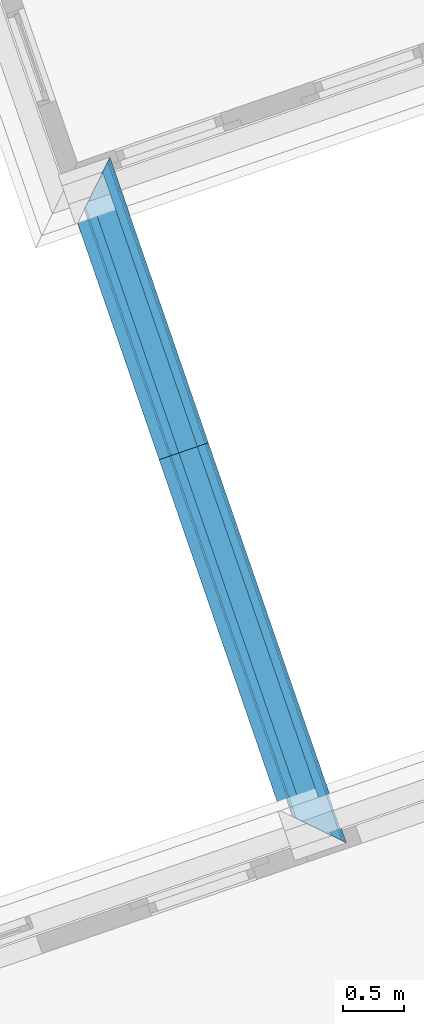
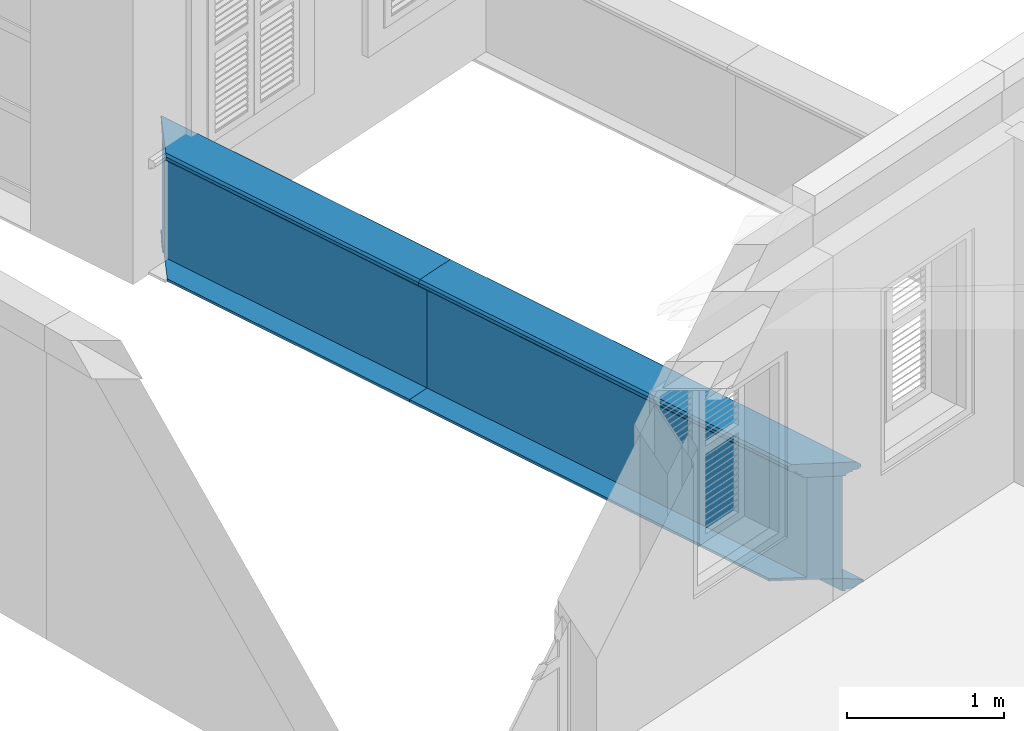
# One storey, part 5 of 16: 6 walls.
"""IFC4 building model written with IfcOpenShell, lengths in metres."""

from ifc_helpers import new_model, si_unit, frame, origin_with_axes, place, context, subcontext, project, spatial, polyline, outline, extrude, clip, halfspace, material_profile, profile_set, profile_usage, type_object, element, save


model = new_model("IFC4")

# Units and contexts
model_context = context("Model", 3, world=origin_with_axes())
body_context = subcontext(model_context, "Body", "Model", "MODEL_VIEW")
ifc_project = project(units=[si_unit("PLANEANGLEUNIT", "RADIAN"), si_unit("MASSUNIT", "GRAM", prefix="KILO"), si_unit("FORCEUNIT", "NEWTON", prefix="KILO"), si_unit("LENGTHUNIT", "METRE"), si_unit("AREAUNIT", "SQUARE_METRE"), si_unit("VOLUMEUNIT", "CUBIC_METRE")], contexts=[model_context, model_context])

# Site, building, storey
site_placement = place(None, origin_with_axes())
site = spatial("IfcSite", under=ifc_project, at=site_placement, Name="Site plot-8", CompositionType="ELEMENT")
building_placement = place(None, origin_with_axes())
building = spatial("IfcBuilding", under=site, at=building_placement, Name="Building plot-8", CompositionType="ELEMENT")
storey_placement = place(None, frame((0.0, 0.0, 3.0), z_axis=(0.0, 0.0, 1.0), x_axis=(1.0, 0.0, 0.0)))
storey = spatial("IfcBuildingStorey", under=building, at=storey_placement, Name="plot-8 1", CompositionType="ELEMENT", Elevation=3.0)

# Walls
ifc_material_profile_1 = material_profile(None, outline(polyline([(0.25, 0.0), (0.25, 0.795), (0.09, 0.795), (0.09, 0.02), (-0.08, 0.02), (-0.08, 0.0), (0.25, 0.0)])))
ifc_profile_set_1 = profile_set([ifc_material_profile_1])
ifc_profile_usage_1 = profile_usage(ifc_profile_set_1)
wall_type_1 = type_object("IfcWallType", Name="parapet internal_0", PredefinedType="PARAPET", material=ifc_profile_set_1)
wall_1_placement = place(storey_placement, frame((-11.1333938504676, 19.2098516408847, 0.0), z_axis=(0.326112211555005, -0.945331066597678, 0.0), x_axis=(0.945331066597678, 0.326112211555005, 0.0)))
element("IfcWall", 1, at=wall_1_placement, inside=storey, type_object=wall_type_1, material=ifc_profile_usage_1, Name="parapet internal_0", context=body_context, shape_type="Clipping", body=[
    clip(clip(extrude(outline(polyline([(0.25, 0.0), (0.25, 0.795), (0.09, 0.795), (0.09, 0.02), (-0.08, 0.02), (-0.08, 0.0), (0.25, 0.0)])), origin_with_axes(), (0.0, 0.0, 1.0), 5.11187846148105), halfspace(frame((0.0, 0.0, 4.11187846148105), z_axis=(0.707106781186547, 0.0, -0.707106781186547), x_axis=(0.0, 1.0, 0.0)), True)), halfspace(frame((0.0, 0.0, 1.0), z_axis=(1.71512449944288e-15, 0.0, -1.0), x_axis=(0.0, 1.0, 0.0)), False)),
])
ifc_profile_usage_2 = profile_usage(ifc_profile_set_1)
wall_2_placement = place(storey_placement, frame((-11.8256730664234, 21.2166242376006, 0.0), z_axis=(0.32611221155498, -0.945331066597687, 0.0), x_axis=(0.945331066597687, 0.32611221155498, 0.0)))
element("IfcWall", 2, at=wall_2_placement, inside=storey, type_object=wall_type_1, material=ifc_profile_usage_2, Name="parapet internal_0", context=body_context, shape_type="Clipping", body=[
    clip(clip(extrude(outline(polyline([(0.25, 0.0), (0.25, 0.795), (0.09, 0.795), (0.09, 0.02), (-0.08, 0.02), (-0.08, 0.0), (0.25, 0.0)])), origin_with_axes(), (0.0, 0.0, 1.0), 4.12282518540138), halfspace(frame((0.0, 0.0, 3.12282518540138), z_axis=(-2.40420496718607e-14, 0.0, -1.0), x_axis=(0.0, 1.0, 0.0)), True)), halfspace(frame((0.0, 0.0, 1.0), z_axis=(-0.707106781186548, 0.0, -0.707106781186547), x_axis=(0.0, 1.0, 0.0)), False)),
])
ifc_material_profile_2 = material_profile(None, outline(polyline([(0.265, 0.795), (0.268, 0.807), (0.274, 0.816), (0.283, 0.822), (0.295, 0.825), (0.295, 0.84), (0.305, 0.84), (0.317, 0.842), (0.326, 0.849), (0.333, 0.858), (0.335, 0.87), (0.333, 0.882), (0.326, 0.891), (0.317, 0.898), (0.305, 0.9), (0.035, 0.9), (0.023, 0.898), (0.014, 0.891), (0.007, 0.882), (0.005, 0.87), (0.007, 0.858), (0.014, 0.849), (0.023, 0.842), (0.035, 0.84), (0.045, 0.84), (0.045, 0.825), (0.057, 0.822), (0.066, 0.816), (0.072, 0.807), (0.075, 0.795), (0.265, 0.795)])))
ifc_profile_set_2 = profile_set([ifc_material_profile_2])
ifc_profile_usage_3 = profile_usage(ifc_profile_set_2)
wall_type_2 = type_object("IfcWallType", Name="parapet internal_1", PredefinedType="PARAPET", material=ifc_profile_set_2)
wall_3_placement = place(storey_placement, frame((-11.1333938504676, 19.2098516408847, 0.0), z_axis=(0.326112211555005, -0.945331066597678, 0.0), x_axis=(0.945331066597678, 0.326112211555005, 0.0)))
element("IfcWall", 3, at=wall_3_placement, inside=storey, type_object=wall_type_2, material=ifc_profile_usage_3, Name="parapet internal_1", context=body_context, shape_type="Clipping", body=[
    clip(clip(extrude(outline(polyline([(0.265, 0.795), (0.268, 0.807), (0.274, 0.816), (0.283, 0.822), (0.295, 0.825), (0.295, 0.84), (0.305, 0.84), (0.317, 0.842), (0.326, 0.849), (0.333, 0.858), (0.335, 0.87), (0.333, 0.882), (0.326, 0.891), (0.317, 0.898), (0.305, 0.9), (0.035, 0.9), (0.023, 0.898), (0.014, 0.891), (0.007, 0.882), (0.005, 0.87), (0.007, 0.858), (0.014, 0.849), (0.023, 0.842), (0.035, 0.84), (0.045, 0.84), (0.045, 0.825), (0.057, 0.822), (0.066, 0.816), (0.072, 0.807), (0.075, 0.795), (0.265, 0.795)])), origin_with_axes(), (0.0, 0.0, 1.0), 5.11187846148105), halfspace(frame((0.0, 0.0, 4.11187846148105), z_axis=(0.707106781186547, 0.0, -0.707106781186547), x_axis=(0.0, 1.0, 0.0)), True)), halfspace(frame((0.0, 0.0, 1.0), z_axis=(1.71512449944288e-15, 0.0, -1.0), x_axis=(0.0, 1.0, 0.0)), False)),
])
ifc_profile_usage_4 = profile_usage(ifc_profile_set_2)
wall_4_placement = place(storey_placement, frame((-11.8256730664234, 21.2166242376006, 0.0), z_axis=(0.32611221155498, -0.945331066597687, 0.0), x_axis=(0.945331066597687, 0.32611221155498, 0.0)))
element("IfcWall", 4, at=wall_4_placement, inside=storey, type_object=wall_type_2, material=ifc_profile_usage_4, Name="parapet internal_1", context=body_context, shape_type="Clipping", body=[
    clip(clip(extrude(outline(polyline([(0.265, 0.795), (0.268, 0.807), (0.274, 0.816), (0.283, 0.822), (0.295, 0.825), (0.295, 0.84), (0.305, 0.84), (0.317, 0.842), (0.326, 0.849), (0.333, 0.858), (0.335, 0.87), (0.333, 0.882), (0.326, 0.891), (0.317, 0.898), (0.305, 0.9), (0.035, 0.9), (0.023, 0.898), (0.014, 0.891), (0.007, 0.882), (0.005, 0.87), (0.007, 0.858), (0.014, 0.849), (0.023, 0.842), (0.035, 0.84), (0.045, 0.84), (0.045, 0.825), (0.057, 0.822), (0.066, 0.816), (0.072, 0.807), (0.075, 0.795), (0.265, 0.795)])), origin_with_axes(), (0.0, 0.0, 1.0), 4.12282518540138), halfspace(frame((0.0, 0.0, 3.12282518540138), z_axis=(-2.40420496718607e-14, 0.0, -1.0), x_axis=(0.0, 1.0, 0.0)), True)), halfspace(frame((0.0, 0.0, 1.0), z_axis=(-0.707106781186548, 0.0, -0.707106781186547), x_axis=(0.0, 1.0, 0.0)), False)),
])
ifc_material_profile_3 = material_profile(None, outline(polyline([(0.25, -0.1), (0.265, -0.1), (0.265, -0.085), (0.278, -0.084), (0.289, -0.081), (0.301, -0.074), (0.309, -0.065), (0.315, -0.055), (0.324, -0.044), (0.334, -0.038), (0.345, -0.035), (0.345, -0.015), (0.25, 0.0), (0.25, -0.1)])))
ifc_profile_set_3 = profile_set([ifc_material_profile_3])
ifc_profile_usage_5 = profile_usage(ifc_profile_set_3)
wall_type_3 = type_object("IfcWallType", Name="parapet internal_2", PredefinedType="PARAPET", material=ifc_profile_set_3)
wall_5_placement = place(storey_placement, frame((-11.1333938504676, 19.2098516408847, 0.0), z_axis=(0.326112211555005, -0.945331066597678, 0.0), x_axis=(0.945331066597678, 0.326112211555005, 0.0)))
element("IfcWall", 5, at=wall_5_placement, inside=storey, type_object=wall_type_3, material=ifc_profile_usage_5, Name="parapet internal_2", context=body_context, shape_type="Clipping", body=[
    clip(clip(extrude(outline(polyline([(0.25, -0.1), (0.265, -0.1), (0.265, -0.085), (0.278, -0.084), (0.289, -0.081), (0.301, -0.074), (0.309, -0.065), (0.315, -0.055), (0.324, -0.044), (0.334, -0.038), (0.345, -0.035), (0.345, -0.015), (0.25, 0.0), (0.25, -0.1)])), origin_with_axes(), (0.0, 0.0, 1.0), 5.11187846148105), halfspace(frame((0.0, 0.0, 4.11187846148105), z_axis=(0.707106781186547, 0.0, -0.707106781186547), x_axis=(0.0, 1.0, 0.0)), True)), halfspace(frame((0.0, 0.0, 1.0), z_axis=(1.71512449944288e-15, 0.0, -1.0), x_axis=(0.0, 1.0, 0.0)), False)),
])
ifc_profile_usage_6 = profile_usage(ifc_profile_set_3)
wall_6_placement = place(storey_placement, frame((-11.8256730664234, 21.2166242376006, 0.0), z_axis=(0.32611221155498, -0.945331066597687, 0.0), x_axis=(0.945331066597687, 0.32611221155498, 0.0)))
element("IfcWall", 6, at=wall_6_placement, inside=storey, type_object=wall_type_3, material=ifc_profile_usage_6, Name="parapet internal_2", context=body_context, shape_type="Clipping", body=[
    clip(clip(extrude(outline(polyline([(0.25, -0.1), (0.265, -0.1), (0.265, -0.085), (0.278, -0.084), (0.289, -0.081), (0.301, -0.074), (0.309, -0.065), (0.315, -0.055), (0.324, -0.044), (0.334, -0.038), (0.345, -0.035), (0.345, -0.015), (0.25, 0.0), (0.25, -0.1)])), origin_with_axes(), (0.0, 0.0, 1.0), 4.12282518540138), halfspace(frame((0.0, 0.0, 3.12282518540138), z_axis=(-2.40420496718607e-14, 0.0, -1.0), x_axis=(0.0, 1.0, 0.0)), True)), halfspace(frame((0.0, 0.0, 1.0), z_axis=(-0.707106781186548, 0.0, -0.707106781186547), x_axis=(0.0, 1.0, 0.0)), False)),
])

save(model, "model.ifc")
